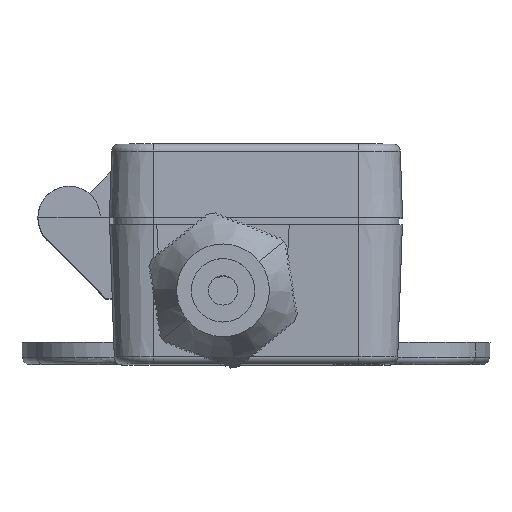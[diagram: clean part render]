
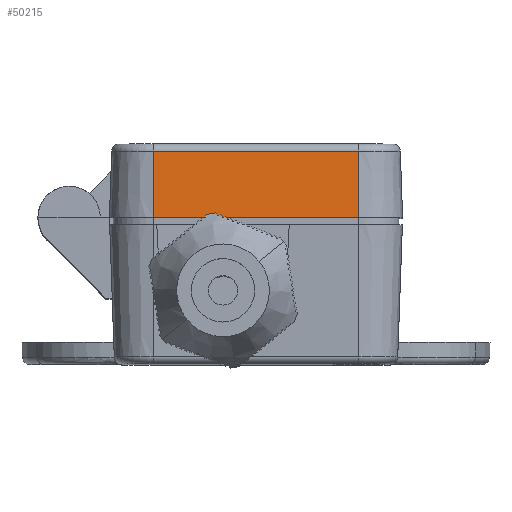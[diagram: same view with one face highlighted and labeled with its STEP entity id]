
A CAD part, top view. The second image highlights one B-rep face of the part: STEP entity #50215.
In plain terms, the highlighted planar face has unit normal (0, 0.035, 0.999).
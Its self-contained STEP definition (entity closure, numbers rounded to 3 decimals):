
#2490 = LINE ( 'NONE', #21439, #12632 ) ;
#3256 = CARTESIAN_POINT ( 'NONE',  ( 14., 0., 50. ) ) ;
#5265 = CARTESIAN_POINT ( 'NONE',  ( 14., 9.035, 49.684 ) ) ;
#6697 = LINE ( 'NONE', #18244, #49538 ) ;
#10101 = VERTEX_POINT ( 'NONE', #3256 ) ;
#10328 = VECTOR ( 'NONE', #13969, 1000. ) ;
#11158 = EDGE_CURVE ( 'NONE', #47914, #36610, #6697, .T. ) ;
#12632 = VECTOR ( 'NONE', #17619, 1000. ) ;
#13095 = DIRECTION ( 'NONE',  ( 0., 0.035, 0.999 ) ) ;
#13969 = DIRECTION ( 'NONE',  ( -1., 0., 0. ) ) ;
#14322 = AXIS2_PLACEMENT_3D ( 'NONE', #16936, #13095, #29901 ) ;
#16936 = CARTESIAN_POINT ( 'NONE',  ( 14., 0., 50. ) ) ;
#17619 = DIRECTION ( 'NONE',  ( 0., -0.999, 0.035 ) ) ;
#17989 = DIRECTION ( 'NONE',  ( 0., -0.999, 0.035 ) ) ;
#18244 = CARTESIAN_POINT ( 'NONE',  ( -14., 0., 50. ) ) ;
#18703 = LINE ( 'NONE', #21780, #34830 ) ;
#19015 = EDGE_CURVE ( 'NONE', #36610, #10101, #18703, .T. ) ;
#21439 = CARTESIAN_POINT ( 'NONE',  ( 14., 0., 50. ) ) ;
#21780 = CARTESIAN_POINT ( 'NONE',  ( 14., 0., 50. ) ) ;
#26019 = CARTESIAN_POINT ( 'NONE',  ( -14., 0., 50. ) ) ;
#27232 = ORIENTED_EDGE ( 'NONE', *, *, #19015, .T. ) ;
#28079 = ORIENTED_EDGE ( 'NONE', *, *, #30780, .T. ) ;
#28369 = EDGE_CURVE ( 'NONE', #31577, #10101, #2490, .T. ) ;
#29901 = DIRECTION ( 'NONE',  ( 0., -0.999, 0.035 ) ) ;
#30195 = DIRECTION ( 'NONE',  ( 1., 0., 0. ) ) ;
#30780 = EDGE_CURVE ( 'NONE', #31577, #47914, #36724, .T. ) ;
#31577 = VERTEX_POINT ( 'NONE', #38080 ) ;
#33167 = ORIENTED_EDGE ( 'NONE', *, *, #28369, .F. ) ;
#33932 = ORIENTED_EDGE ( 'NONE', *, *, #11158, .T. ) ;
#34830 = VECTOR ( 'NONE', #30195, 1000. ) ;
#36610 = VERTEX_POINT ( 'NONE', #26019 ) ;
#36724 = LINE ( 'NONE', #5265, #10328 ) ;
#38080 = CARTESIAN_POINT ( 'NONE',  ( 14., 9.035, 49.684 ) ) ;
#39871 = CARTESIAN_POINT ( 'NONE',  ( -14., 9.035, 49.684 ) ) ;
#41655 = PLANE ( 'NONE',  #14322 ) ;
#44522 = FACE_OUTER_BOUND ( 'NONE', #49321, .T. ) ;
#47914 = VERTEX_POINT ( 'NONE', #39871 ) ;
#49321 = EDGE_LOOP ( 'NONE', ( #33167, #28079, #33932, #27232 ) ) ;
#49538 = VECTOR ( 'NONE', #17989, 1000. ) ;
#50215 = ADVANCED_FACE ( 'NONE', ( #44522 ), #41655, .T. ) ;
